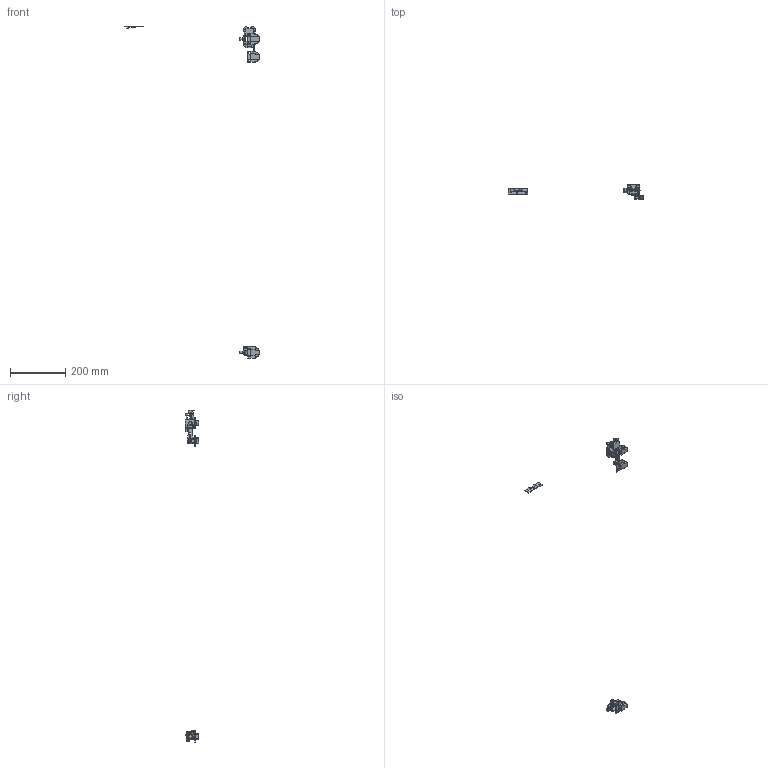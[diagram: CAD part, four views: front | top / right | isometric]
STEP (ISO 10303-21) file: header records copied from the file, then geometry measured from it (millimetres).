
FILE_DESCRIPTION( ( 'STEP AP214' ), '1' );
FILE_NAME( 'C:/Users/KOSH/Desktop/Export/Wingline L/9278485.stp', '2020-02-17T09:32:16', ( '' ), ( '' ), ' ', 'PARTsolutions', ' ' );
FILE_SCHEMA( ( 'AUTOMOTIVE_DESIGN { 1 0 10303 214 1 1 1 1 }' ) );
Length unit declared in the file: millimetre
Products named in the file (5): 9278485; _9237710; _9237492; _9236926; _9237432
Assembly tree (5 placements, depth 2):
  9278485
    _9237710
    _9237492
    _9236926  x2
    _9237432
Bounding box: 492.44 x 49.8 x 1205.5 mm (x, y, z)
Volume: 87991.2 mm3; surface area: 61770 mm2
Topology: 5 solids, 5 shells, 969 faces, 2908 edges, 1935 vertices
Faces by surface type: plane 697, cylinder 261, cone 7, bspline 2, torus 2
Full cylindrical faces by diameter (mm): 0.02 x1, 2 x8, 3 x2, 4 x2, 4.2 x2, 4.298 x1, 4.4 x3, 5 x4, 5.2 x4, 5.3 x2, 5.5 x1, 7 x2, 8 x6, 8.5 x1, 9 x1, 9.982 x1, 11.59 x2, 11.94 x2, 13 x2, 13.948 x1, 19 x2
Entity records: 39818 total; most frequent: CARTESIAN_POINT 6563, ORIENTED_EDGE 5482, DIRECTION 5124, EDGE_CURVE 2741, LINE 2076, VECTOR 2076, VERTEX_POINT 1859, AXIS2_PLACEMENT_3D 1524
